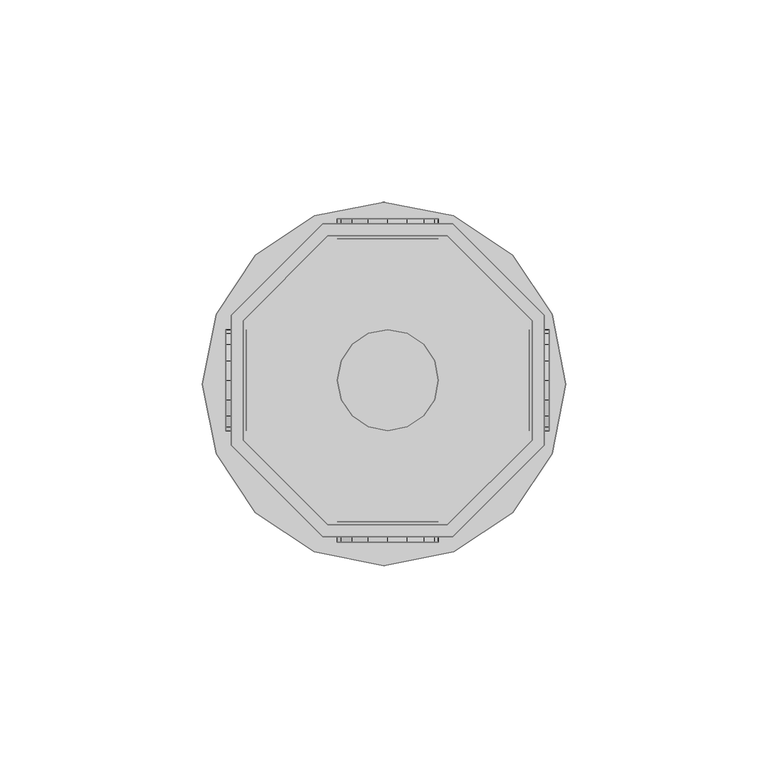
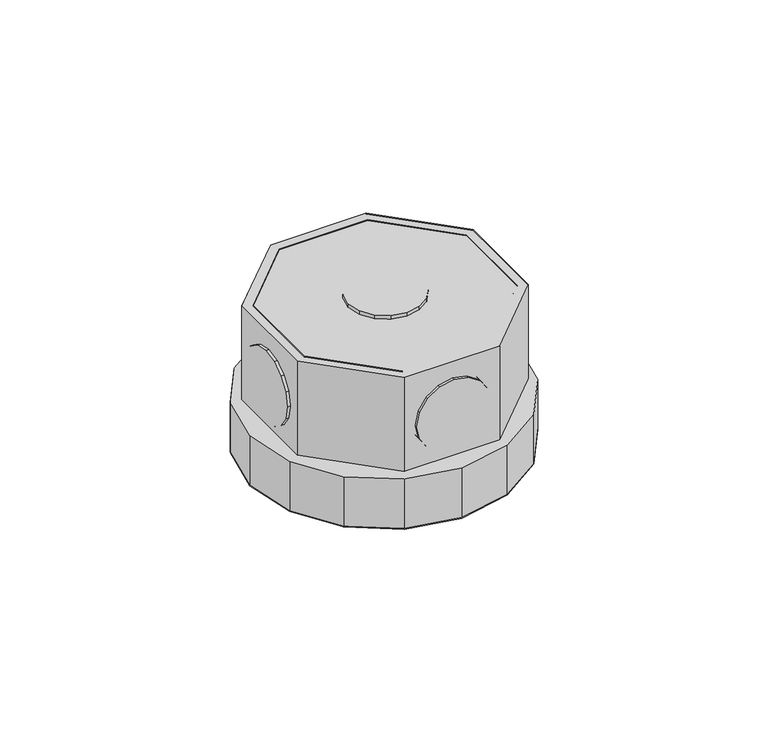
"""IFC4 building model written with IfcOpenShell, lengths in millimetres: light fixture geometry,  212628 :  212628."""

from ifc_helpers import new_model, si_unit, origin, place, context, project, spatial, triangles, source, transform, mapped, element, save


def light_fixture_0f7b3ed5(model_context):
    return source(origin(), model_context, "Body", "Tessellation", [
        triangles([(31728.4005432, 16777.1003632, 2924.5999741), (31728.4005432, 16806.6997192, 2975.400071), (31728.4005432, 16806.6997192, 2924.5999741), (31728.4005432, 16777.1003632, 2975.400071), (31653.9004395, 16775.9004364, 2924.5999741), (31653.9004395, 16807.9996399, 2975.400071), (31653.9004395, 16807.9996399, 2924.5999741), (31653.9004395, 16775.9004364, 2975.400071), (31707.3994995, 16827.6996002, 2975.400071), (31707.3994995, 16827.6996002, 2924.5999741), (31676.599054, 16753.1994965, 2924.5999741), (31676.599054, 16753.1994965, 2975.400071), (31677.7989807, 16827.6996002, 2975.400071), (31677.7989807, 16827.6996002, 2924.5999741), (31708.6994202, 16753.1994965, 2924.5999741), (31708.6994202, 16753.1994965, 2975.400071), (31656.9002563, 16806.6997192, 2975.400071), (31656.9002563, 16806.6997192, 2924.5999741), (31731.4003601, 16775.9004364, 2924.5999741), (31731.4003601, 16775.9004364, 2975.400071), (31656.9002563, 16777.1003632, 2924.5999741), (31656.9002563, 16777.1003632, 2975.400071), (31731.4003601, 16807.9996399, 2975.400071), (31731.4003601, 16807.9996399, 2924.5999741), (31677.7989807, 16756.2004761, 2924.5999741), (31677.7989807, 16756.2004761, 2975.400071), (31708.6994202, 16830.7005798, 2975.400071), (31708.6994202, 16830.7005798, 2924.5999741), (31676.599054, 16830.7005798, 2975.400071), (31707.3994995, 16756.2004761, 2975.400071), (31707.3994995, 16756.2004761, 2924.5999741), (31676.599054, 16830.7005798, 2924.5999741), (31677.7989807, 16827.6996002, 2972.3999634), (31656.9002563, 16806.6997192, 2972.3999634), (31656.9002563, 16777.1003632, 2972.3999634), (31677.7989807, 16756.2004761, 2972.3999634), (31707.3994995, 16756.2004761, 2972.3999634), (31728.4005432, 16777.1003632, 2972.3999634), (31728.4005432, 16806.6997192, 2972.3999634), (31707.3994995, 16827.6996002, 2972.3999634), (31708.6994202, 16830.7005798, 2942.4000504), (31731.4003601, 16807.9996399, 2942.4000504), (31731.4003601, 16775.9004364, 2942.4000504), (31708.6994202, 16753.1994965, 2942.4000504), (31676.599054, 16753.1994965, 2942.4000504), (31653.9004395, 16775.9004364, 2942.4000504), (31653.9004395, 16807.9996399, 2942.4000504), (31676.599054, 16830.7005798, 2942.4000504), (31650.2006653, 16808.2996216, 2942.4000504), (31674.4991821, 16832.6004639, 2942.4000504), (31659.9000732, 16822.8998932, 2942.4000504), (31691.7004578, 16836.0002563, 2942.4000504), (31708.9994019, 16832.6004639, 2942.4000504), (31723.6008362, 16822.8998932, 2942.4000504), (31733.3002441, 16808.2996216, 2942.4000504), (31736.7000366, 16790.9995148, 2942.4000504), (31733.3002441, 16773.8005646, 2942.4000504), (31708.9994019, 16749.4997223, 2942.4000504), (31723.6008362, 16759.200293, 2942.4000504), (31646.7008789, 16790.9995148, 2942.4000504), (31650.2006653, 16773.8005646, 2942.4000504), (31659.9000732, 16759.200293, 2942.4000504), (31674.4991821, 16749.4997223, 2942.4000504), (31691.7004578, 16745.9999359, 2942.4000504), (31674.4991821, 16832.6004639, 2924.5999741), (31650.2006653, 16808.2996216, 2924.5999741), (31659.9000732, 16822.8998932, 2924.5999741), (31691.7004578, 16836.0002563, 2924.5999741), (31708.9994019, 16832.6004639, 2924.5999741), (31723.6008362, 16822.8998932, 2924.5999741), (31733.3002441, 16808.2996216, 2924.5999741), (31736.7000366, 16790.9995148, 2924.5999741), (31733.3002441, 16773.8005646, 2924.5999741), (31708.9994019, 16749.4997223, 2924.5999741), (31723.6008362, 16759.200293, 2924.5999741), (31646.7008789, 16790.9995148, 2924.5999741), (31650.2006653, 16773.8005646, 2924.5999741), (31659.9000732, 16759.200293, 2924.5999741), (31674.4991821, 16749.4997223, 2924.5999741), (31691.7004578, 16745.9999359, 2924.5999741), (31732.6002869, 16803.4999146, 2952.6000092), (31732.6002869, 16796.7003296, 2945.9001274), (31732.6002869, 16800.8000793, 2948.5999626), (31732.6002869, 16804.3998596, 2957.4000069), (31732.6002869, 16791.8994598, 2944.8998978), (31732.6002869, 16803.4999146, 2962.2000046), (31732.6002869, 16787.0997528, 2945.9001274), (31732.6002869, 16800.8000793, 2966.2000511), (31732.6002869, 16783.0999969, 2948.5999626), (31732.6002869, 16796.7003296, 2968.8998863), (31732.6002869, 16780.4001617, 2952.6000092), (31732.6002869, 16791.8994598, 2969.900116), (31732.6002869, 16779.4002228, 2957.4000069), (31732.6002869, 16787.0997528, 2968.8998863), (31732.6002869, 16780.4001617, 2962.2000046), (31732.6002869, 16783.0999969, 2966.2000511), (31727.600592, 16796.7003296, 2945.9001274), (31727.600592, 16803.4999146, 2952.6000092), (31727.600592, 16800.8000793, 2948.5999626), (31727.600592, 16791.8994598, 2944.8998978), (31727.600592, 16804.3998596, 2957.4000069), (31727.600592, 16787.0997528, 2945.9001274), (31727.600592, 16803.4999146, 2962.2000046), (31727.600592, 16783.0999969, 2948.5999626), (31727.600592, 16800.8000793, 2966.2000511), (31727.600592, 16796.7003296, 2968.8998863), (31727.600592, 16780.4001617, 2952.6000092), (31727.600592, 16791.8994598, 2969.900116), (31727.600592, 16779.4002228, 2957.4000069), (31727.600592, 16787.0997528, 2968.8998863), (31727.600592, 16780.4001617, 2962.2000046), (31727.600592, 16783.0999969, 2966.2000511), (31657.6002136, 16803.4999146, 2952.6000092), (31657.6002136, 16796.7003296, 2945.9001274), (31657.6002136, 16800.8000793, 2948.5999626), (31657.6002136, 16804.3998596, 2957.4000069), (31657.6002136, 16791.8994598, 2944.8998978), (31657.6002136, 16803.4999146, 2962.2000046), (31657.6002136, 16787.0997528, 2945.9001274), (31657.6002136, 16800.8000793, 2966.2000511), (31657.6002136, 16783.0999969, 2948.5999626), (31657.6002136, 16796.7003296, 2968.8998863), (31657.6002136, 16780.4001617, 2952.6000092), (31657.6002136, 16791.8994598, 2969.900116), (31657.6002136, 16779.4002228, 2957.4000069), (31657.6002136, 16787.0997528, 2968.8998863), (31657.6002136, 16780.4001617, 2962.2000046), (31657.6002136, 16783.0999969, 2966.2000511), (31652.6005188, 16796.7003296, 2945.9001274), (31652.6005188, 16803.4999146, 2952.6000092), (31652.6005188, 16800.8000793, 2948.5999626), (31652.6005188, 16791.8994598, 2944.8998978), (31652.6005188, 16804.3998596, 2957.4000069), (31652.6005188, 16787.0997528, 2945.9001274), (31652.6005188, 16803.4999146, 2962.2000046), (31652.6005188, 16783.0999969, 2948.5999626), (31652.6005188, 16800.8000793, 2966.2000511), (31652.6005188, 16796.7003296, 2968.8998863), (31652.6005188, 16780.4001617, 2952.6000092), (31652.6005188, 16791.8994598, 2969.900116), (31652.6005188, 16779.4002228, 2957.4000069), (31652.6005188, 16787.0997528, 2968.8998863), (31652.6005188, 16780.4001617, 2962.2000046), (31652.6005188, 16783.0999969, 2966.2000511), (31687.8006958, 16826.899649, 2945.9001274), (31681.1011047, 16826.899649, 2952.6000092), (31683.8009399, 16826.899649, 2948.5999626), (31692.6004028, 16826.899649, 2944.8998978), (31680.0988403, 16826.899649, 2957.4000069), (31697.4001099, 16826.899649, 2945.9001274), (31681.1011047, 16826.899649, 2962.2000046), (31701.4998596, 16826.899649, 2948.5999626), (31683.8009399, 16826.899649, 2966.2000511), (31687.8006958, 16826.899649, 2968.8998863), (31704.1996948, 16826.899649, 2952.6000092), (31692.6004028, 16826.899649, 2969.900116), (31705.0996399, 16826.899649, 2957.4000069), (31697.4001099, 16826.899649, 2968.8998863), (31704.1996948, 16826.899649, 2962.2000046), (31701.4998596, 16826.899649, 2966.2000511), (31681.1011047, 16831.9005066, 2952.6000092), (31687.8006958, 16831.9005066, 2945.9001274), (31683.8009399, 16831.9005066, 2948.5999626), (31680.0988403, 16831.9005066, 2957.4000069), (31692.6004028, 16831.9005066, 2944.8998978), (31681.1011047, 16831.9005066, 2962.2000046), (31697.4001099, 16831.9005066, 2945.9001274), (31683.8009399, 16831.9005066, 2966.2000511), (31701.4998596, 16831.9005066, 2948.5999626), (31687.8006958, 16831.9005066, 2968.8998863), (31704.1996948, 16831.9005066, 2952.6000092), (31692.6004028, 16831.9005066, 2969.900116), (31705.0996399, 16831.9005066, 2957.4000069), (31697.4001099, 16831.9005066, 2968.8998863), (31704.1996948, 16831.9005066, 2962.2000046), (31701.4998596, 16831.9005066, 2966.2000511), (31687.8006958, 16751.8995758, 2945.9001274), (31681.1011047, 16751.8995758, 2952.6000092), (31683.8009399, 16751.8995758, 2948.5999626), (31692.6004028, 16751.8995758, 2944.8998978), (31680.0988403, 16751.8995758, 2957.4000069), (31697.4001099, 16751.8995758, 2945.9001274), (31681.1011047, 16751.8995758, 2962.2000046), (31701.4998596, 16751.8995758, 2948.5999626), (31683.8009399, 16751.8995758, 2966.2000511), (31687.8006958, 16751.8995758, 2968.8998863), (31704.1996948, 16751.8995758, 2952.6000092), (31692.6004028, 16751.8995758, 2969.900116), (31705.0996399, 16751.8995758, 2957.4000069), (31697.4001099, 16751.8995758, 2968.8998863), (31704.1996948, 16751.8995758, 2962.2000046), (31701.4998596, 16751.8995758, 2966.2000511), (31681.1011047, 16756.9004333, 2952.6000092), (31687.8006958, 16756.9004333, 2945.9001274), (31683.8009399, 16756.9004333, 2948.5999626), (31680.0988403, 16756.9004333, 2957.4000069), (31692.6004028, 16756.9004333, 2944.8998978), (31681.1011047, 16756.9004333, 2962.2000046), (31697.4001099, 16756.9004333, 2945.9001274), (31683.8009399, 16756.9004333, 2966.2000511), (31701.4998596, 16756.9004333, 2948.5999626), (31687.8006958, 16756.9004333, 2968.8998863), (31704.1996948, 16756.9004333, 2952.6000092), (31692.6004028, 16756.9004333, 2969.900116), (31705.0996399, 16756.9004333, 2957.4000069), (31697.4001099, 16756.9004333, 2968.8998863), (31704.1996948, 16756.9004333, 2962.2000046), (31701.4998596, 16756.9004333, 2966.2000511), (31681.1011047, 16796.7003296, 2976.9999733), (31687.8006958, 16803.4999146, 2976.9999733), (31683.8009399, 16800.8000793, 2976.9999733), (31692.6004028, 16804.3998596, 2976.9999733), (31680.0988403, 16791.8994598, 2976.9999733), (31697.4001099, 16803.4999146, 2976.9999733), (31681.1011047, 16787.0997528, 2976.9999733), (31701.4998596, 16800.8000793, 2976.9999733), (31683.8009399, 16783.0999969, 2976.9999733), (31704.1996948, 16796.7003296, 2976.9999733), (31687.8006958, 16780.4001617, 2976.9999733), (31705.0996399, 16791.8994598, 2976.9999733), (31692.6004028, 16779.4002228, 2976.9999733), (31704.1996948, 16787.0997528, 2976.9999733), (31697.4001099, 16780.4001617, 2976.9999733), (31701.4998596, 16783.0999969, 2976.9999733), (31687.8006958, 16803.4999146, 2971.9999878), (31681.1011047, 16796.7003296, 2971.9999878), (31683.8009399, 16800.8000793, 2971.9999878), (31692.6004028, 16804.3998596, 2971.9999878), (31680.0988403, 16791.8994598, 2971.9999878), (31697.4001099, 16803.4999146, 2971.9999878), (31681.1011047, 16787.0997528, 2971.9999878), (31701.4998596, 16800.8000793, 2971.9999878), (31683.8009399, 16783.0999969, 2971.9999878), (31704.1996948, 16796.7003296, 2971.9999878), (31687.8006958, 16780.4001617, 2971.9999878), (31705.0996399, 16791.8994598, 2971.9999878), (31692.6004028, 16779.4002228, 2971.9999878), (31704.1996948, 16787.0997528, 2971.9999878), (31697.4001099, 16780.4001617, 2971.9999878), (31701.4998596, 16783.0999969, 2971.9999878)], [[1, 2, 3], [2, 1, 4], [5, 6, 7], [6, 5, 8], [3, 9, 10], [9, 3, 2], [11, 8, 5], [8, 11, 12], [10, 13, 14], [13, 10, 9], [15, 12, 11], [12, 15, 16], [14, 17, 18], [17, 14, 13], [19, 16, 15], [16, 19, 20], [17, 21, 18], [21, 17, 22], [23, 19, 24], [19, 23, 20], [22, 25, 21], [25, 22, 26], [27, 24, 28], [24, 27, 23], [6, 13, 29], [29, 13, 27], [27, 13, 9], [27, 9, 23], [23, 9, 2], [23, 2, 4], [23, 4, 20], [20, 4, 30], [8, 17, 6], [6, 17, 13], [17, 8, 22], [12, 22, 8], [22, 12, 26], [30, 26, 12], [16, 30, 12], [20, 30, 16], [30, 1, 31], [1, 30, 4], [6, 32, 7], [32, 6, 29], [32, 14, 7], [28, 14, 32], [14, 28, 10], [24, 10, 28], [10, 24, 3], [1, 3, 24], [19, 1, 24], [31, 1, 19], [7, 18, 5], [14, 18, 7], [5, 18, 21], [5, 21, 11], [11, 21, 25], [11, 25, 31], [11, 31, 15], [15, 31, 19], [26, 31, 25], [31, 26, 30], [29, 28, 32], [28, 29, 27], [17, 33, 34], [33, 17, 13], [35, 17, 34], [17, 35, 22], [36, 22, 35], [22, 36, 26], [37, 26, 36], [26, 37, 30], [38, 30, 37], [30, 38, 4], [2, 38, 39], [38, 2, 4], [17, 9, 13], [9, 17, 22], [9, 22, 2], [2, 22, 26], [2, 26, 4], [4, 26, 30], [13, 40, 33], [40, 13, 9], [40, 34, 33], [35, 34, 40], [35, 40, 39], [35, 39, 36], [36, 39, 38], [36, 38, 37], [9, 39, 40], [39, 9, 2], [24, 41, 28], [41, 24, 42], [19, 42, 24], [42, 19, 43], [44, 19, 15], [19, 44, 43], [45, 15, 11], [15, 45, 44], [46, 11, 5], [11, 46, 45], [47, 5, 7], [5, 47, 46], [32, 47, 7], [47, 32, 48], [28, 48, 32], [48, 28, 41], [49, 50, 51], [48, 50, 49], [50, 48, 52], [41, 52, 48], [52, 41, 53], [53, 41, 54], [42, 54, 41], [54, 42, 55], [55, 42, 43], [55, 43, 56], [56, 43, 57], [57, 43, 44], [57, 44, 58], [57, 58, 59], [47, 49, 60], [49, 47, 48], [47, 60, 46], [61, 46, 60], [46, 61, 62], [46, 62, 45], [45, 62, 63], [44, 45, 63], [44, 63, 64], [44, 64, 58], [65, 66, 67], [66, 65, 32], [68, 32, 65], [32, 68, 28], [28, 68, 69], [70, 28, 69], [28, 70, 24], [71, 24, 70], [19, 24, 71], [19, 71, 72], [73, 19, 72], [19, 73, 15], [74, 15, 73], [74, 73, 75], [76, 66, 7], [32, 7, 66], [5, 76, 7], [76, 5, 77], [77, 5, 78], [11, 78, 5], [78, 11, 79], [79, 11, 15], [79, 15, 80], [80, 15, 74], [57, 75, 73], [75, 57, 59], [56, 73, 72], [73, 56, 57], [55, 72, 71], [72, 55, 56], [54, 71, 70], [71, 54, 55], [53, 70, 69], [70, 53, 54], [52, 69, 68], [69, 52, 53], [50, 68, 65], [68, 50, 52], [51, 65, 67], [65, 51, 50], [66, 51, 67], [51, 66, 49], [76, 49, 66], [49, 76, 60], [77, 60, 76], [60, 77, 61], [78, 61, 77], [61, 78, 62], [79, 62, 78], [62, 79, 63], [80, 63, 79], [63, 80, 64], [75, 58, 74], [58, 75, 59], [74, 64, 80], [64, 74, 58], [81, 82, 83], [82, 81, 84], [85, 82, 84], [85, 84, 86], [87, 85, 86], [87, 86, 88], [87, 88, 89], [89, 88, 90], [89, 90, 91], [91, 90, 92], [91, 92, 93], [93, 92, 94], [93, 94, 95], [95, 94, 96], [97, 98, 99], [98, 97, 100], [101, 98, 100], [101, 100, 102], [103, 101, 102], [103, 102, 104], [103, 104, 105], [105, 104, 106], [106, 104, 107], [106, 107, 108], [108, 107, 109], [108, 109, 110], [110, 109, 111], [110, 111, 112], [87, 104, 102], [104, 87, 89], [85, 102, 100], [102, 85, 87], [82, 100, 97], [100, 82, 85], [83, 97, 99], [97, 83, 82], [98, 83, 99], [83, 98, 81], [101, 81, 98], [81, 101, 84], [103, 84, 101], [84, 103, 86], [105, 86, 103], [86, 105, 88], [106, 88, 105], [88, 106, 90], [108, 90, 106], [90, 108, 92], [110, 92, 108], [92, 110, 94], [112, 94, 110], [94, 112, 96], [95, 112, 111], [112, 95, 96], [93, 111, 109], [111, 93, 95], [89, 107, 104], [107, 89, 91], [91, 109, 107], [109, 91, 93], [113, 114, 115], [114, 113, 116], [117, 114, 116], [117, 116, 118], [119, 117, 118], [119, 118, 120], [119, 120, 121], [121, 120, 122], [121, 122, 123], [123, 122, 124], [123, 124, 125], [125, 124, 126], [125, 126, 127], [127, 126, 128], [129, 130, 131], [130, 129, 132], [133, 130, 132], [133, 132, 134], [135, 133, 134], [135, 134, 136], [135, 136, 137], [137, 136, 138], [138, 136, 139], [138, 139, 140], [140, 139, 141], [140, 141, 142], [142, 141, 143], [142, 143, 144], [119, 136, 134], [136, 119, 121], [117, 134, 132], [134, 117, 119], [114, 132, 129], [132, 114, 117], [115, 129, 131], [129, 115, 114], [130, 115, 131], [115, 130, 113], [133, 113, 130], [113, 133, 116], [135, 116, 133], [116, 135, 118], [137, 118, 135], [118, 137, 120], [138, 120, 137], [120, 138, 122], [140, 122, 138], [122, 140, 124], [142, 124, 140], [124, 142, 126], [144, 126, 142], [126, 144, 128], [127, 144, 143], [144, 127, 128], [125, 143, 141], [143, 125, 127], [121, 139, 136], [139, 121, 123], [123, 141, 139], [141, 123, 125], [145, 146, 147], [146, 145, 148], [149, 146, 148], [149, 148, 150], [151, 149, 150], [151, 150, 152], [151, 152, 153], [153, 152, 154], [154, 152, 155], [154, 155, 156], [156, 155, 157], [156, 157, 158], [158, 157, 159], [158, 159, 160], [161, 162, 163], [162, 161, 164], [165, 162, 164], [165, 164, 166], [167, 165, 166], [167, 166, 168], [169, 167, 168], [169, 168, 170], [169, 170, 171], [171, 170, 172], [171, 172, 173], [173, 172, 174], [173, 174, 175], [175, 174, 176], [158, 176, 174], [176, 158, 160], [156, 174, 172], [174, 156, 158], [154, 172, 170], [172, 154, 156], [153, 170, 168], [170, 153, 154], [151, 168, 166], [168, 151, 153], [149, 166, 164], [166, 149, 151], [146, 164, 161], [164, 146, 149], [147, 161, 163], [161, 147, 146], [162, 147, 163], [147, 162, 145], [165, 145, 162], [145, 165, 148], [167, 148, 165], [148, 167, 150], [169, 150, 167], [150, 169, 152], [171, 152, 169], [152, 171, 155], [173, 155, 171], [155, 173, 157], [176, 159, 175], [159, 176, 160], [175, 157, 173], [157, 175, 159], [177, 178, 179], [178, 177, 180], [181, 178, 180], [181, 180, 182], [183, 181, 182], [183, 182, 184], [183, 184, 185], [185, 184, 186], [186, 184, 187], [186, 187, 188], [188, 187, 189], [188, 189, 190], [190, 189, 191], [190, 191, 192], [193, 194, 195], [194, 193, 196], [197, 194, 196], [197, 196, 198], [199, 197, 198], [199, 198, 200], [201, 199, 200], [201, 200, 202], [201, 202, 203], [203, 202, 204], [203, 204, 205], [205, 204, 206], [205, 206, 207], [207, 206, 208], [190, 208, 206], [208, 190, 192], [188, 206, 204], [206, 188, 190], [186, 204, 202], [204, 186, 188], [185, 202, 200], [202, 185, 186], [183, 200, 198], [200, 183, 185], [181, 198, 196], [198, 181, 183], [178, 196, 193], [196, 178, 181], [179, 193, 195], [193, 179, 178], [194, 179, 195], [179, 194, 177], [197, 177, 194], [177, 197, 180], [199, 180, 197], [180, 199, 182], [201, 182, 199], [182, 201, 184], [203, 184, 201], [184, 203, 187], [205, 187, 203], [187, 205, 189], [208, 191, 207], [191, 208, 192], [207, 189, 205], [189, 207, 191], [209, 210, 211], [212, 210, 209], [212, 209, 213], [214, 212, 213], [214, 213, 215], [216, 214, 215], [216, 215, 217], [216, 217, 218], [218, 217, 219], [218, 219, 220], [220, 219, 221], [220, 221, 222], [222, 221, 223], [222, 223, 224], [225, 226, 227], [226, 225, 228], [229, 226, 228], [229, 228, 230], [231, 229, 230], [231, 230, 232], [231, 232, 233], [233, 232, 234], [233, 234, 235], [235, 234, 236], [235, 236, 237], [237, 236, 238], [237, 238, 239], [239, 238, 240], [222, 240, 238], [240, 222, 224], [220, 238, 236], [238, 220, 222], [218, 236, 234], [236, 218, 220], [216, 234, 232], [234, 216, 218], [214, 232, 230], [232, 214, 216], [212, 230, 228], [230, 212, 214], [210, 228, 225], [228, 210, 212], [211, 225, 227], [225, 211, 210], [226, 211, 227], [211, 226, 209], [229, 209, 226], [209, 229, 213], [231, 213, 229], [213, 231, 215], [233, 215, 231], [215, 233, 217], [235, 217, 233], [217, 235, 219], [237, 219, 235], [219, 237, 221], [240, 223, 239], [223, 240, 224], [239, 221, 237], [221, 239, 223]], closed=False),
    ])


if __name__ == "__main__":
    model = new_model("IFC4")
    model_context = context("Model", 3, world=origin())
    ifc_project = project(units=[si_unit("LENGTHUNIT", "METRE", prefix="MILLI")], contexts=[model_context])
    site = spatial("IfcSite", under=ifc_project)
    building = spatial("IfcBuilding", under=site)
    placement = place(None, origin())
    light_fixture_shape = light_fixture_0f7b3ed5(model_context)
    element("IfcLightFixture", 1, ObjectType=" 212628 :  212628", at=placement, inside=building, context=model_context, shape_type="MappedRepresentation", body=[
        mapped(light_fixture_shape, transform((0.0, 0.0, 0.0), x_axis=(1.0, 0.0, 0.0), y_axis=(0.0, 1.0, 0.0), z_axis=(0.0, 0.0, 1.0))),
    ])
    save(model, "model.ifc")
